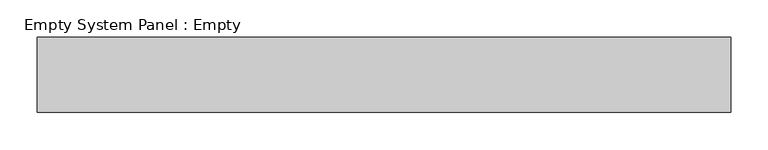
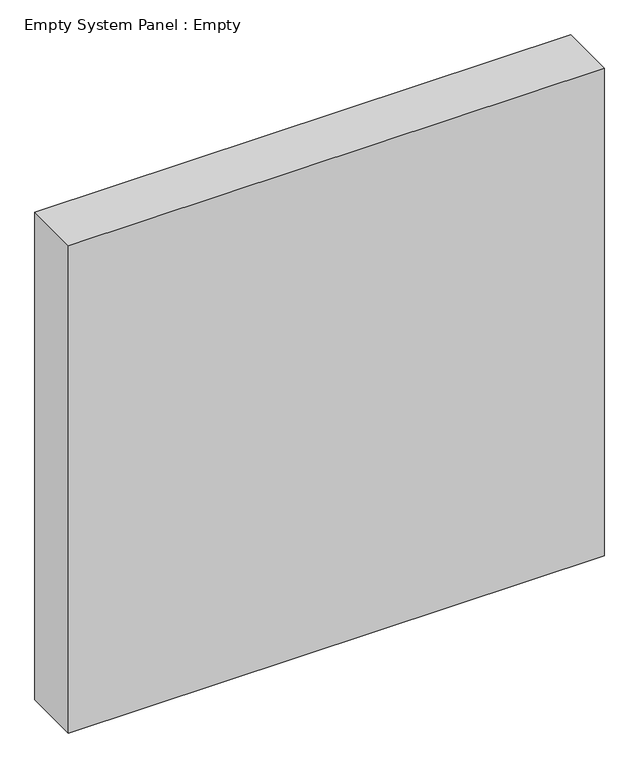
"""IFC4 building model written with IfcOpenShell, lengths in millimetres: plate geometry, Empty System Panel : Empty."""

from ifc_helpers import new_model, si_unit, origin, origin_with_axes, place, context, project, spatial, polyline, outline, extrude, source, transform, mapped, element, save


def empty_system_panel_empty_9adf59d3(model_context):
    return source(origin(), model_context, "Body", "SweptSolid", [
        extrude(outline(polyline([(462.5, -50.0), (-462.5, -50.0), (-462.5, 50.0), (462.5, 50.0), (462.5, -50.0)])), origin_with_axes(), (0.0, 0.0, 1.0), 890.0),
    ])


if __name__ == "__main__":
    model = new_model("IFC4")
    model_context = context("Model", 3, world=origin())
    ifc_project = project(units=[si_unit("LENGTHUNIT", "METRE", prefix="MILLI")], contexts=[model_context])
    site = spatial("IfcSite", under=ifc_project)
    building = spatial("IfcBuilding", under=site)
    placement = place(None, origin())
    empty_system_panel_empty_shape = empty_system_panel_empty_9adf59d3(model_context)
    element("IfcPlate", 1, ObjectType="Empty System Panel : Empty", at=placement, inside=building, context=model_context, shape_type="MappedRepresentation", body=[
        mapped(empty_system_panel_empty_shape, transform((0.0, 0.0, 0.0), x_axis=(1.0, 0.0, 0.0), y_axis=(0.0, 1.0, 0.0), z_axis=(0.0, 0.0, 1.0))),
    ])
    save(model, "model.ifc")
